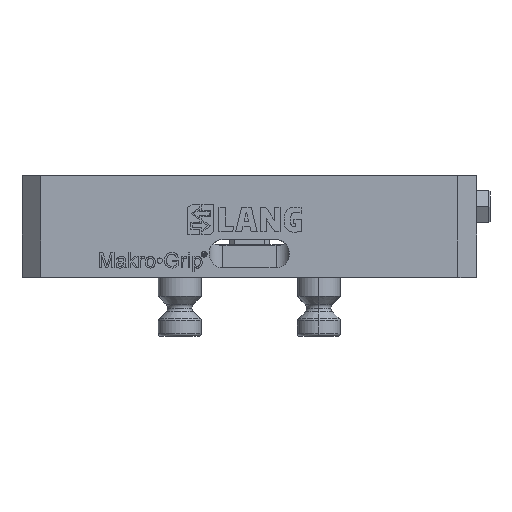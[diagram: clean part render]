
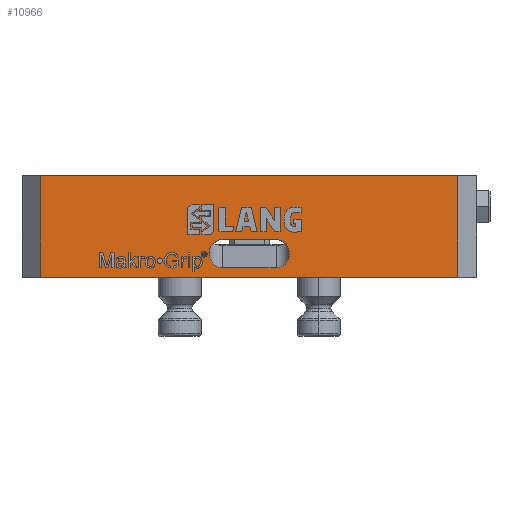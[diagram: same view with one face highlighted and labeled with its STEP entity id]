
A CAD part, top view. The second image highlights one B-rep face of the part: STEP entity #10966.
In plain terms, the highlighted planar face has unit normal (0, 0, 1).
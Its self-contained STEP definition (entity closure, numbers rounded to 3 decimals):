
#294 = EDGE_CURVE ( 'NONE', #27011, #9029, #32308, .T. ) ;
#349 = VERTEX_POINT ( 'NONE', #32998 ) ;
#685 = EDGE_CURVE ( 'NONE', #6804, #349, #3985, .T. ) ;
#1030 = CARTESIAN_POINT ( 'NONE',  ( 15., 8.808, 38.5 ) ) ;
#1328 = FACE_BOUND ( 'NONE', #12270, .T. ) ;
#1530 = EDGE_CURVE ( 'NONE', #5345, #349, #28837, .T. ) ;
#2173 = LINE ( 'NONE', #34609, #36322 ) ;
#2623 = ORIENTED_EDGE ( 'NONE', *, *, #1530, .T. ) ;
#3155 = VERTEX_POINT ( 'NONE', #7924 ) ;
#3768 = ORIENTED_EDGE ( 'NONE', *, *, #21366, .T. ) ;
#3985 = LINE ( 'NONE', #8013, #7930 ) ;
#5191 = EDGE_CURVE ( 'NONE', #25659, #5345, #38164, .T. ) ;
#5345 = VERTEX_POINT ( 'NONE', #29963 ) ;
#5433 = CARTESIAN_POINT ( 'NONE',  ( 78., 0., 38.5 ) ) ;
#5728 = DIRECTION ( 'NONE',  ( -1., 0., 0. ) ) ;
#5866 = CARTESIAN_POINT ( 'NONE',  ( 10., 14.129, 38.5 ) ) ;
#6238 = CARTESIAN_POINT ( 'NONE',  ( 10., 3.487, 38.5 ) ) ;
#6244 = CARTESIAN_POINT ( 'NONE',  ( -10., 14.129, 38.5 ) ) ;
#6804 = VERTEX_POINT ( 'NONE', #40653 ) ;
#7007 = VERTEX_POINT ( 'NONE', #22051 ) ;
#7333 = DIRECTION ( 'NONE',  ( 1., 0., 0. ) ) ;
#7924 = CARTESIAN_POINT ( 'NONE',  ( -78., 38., 38.5 ) ) ;
#7930 = VECTOR ( 'NONE', #7333, 1000. ) ;
#7931 = CARTESIAN_POINT ( 'NONE',  ( -15., 5.691, 38.5 ) ) ;
#8013 = CARTESIAN_POINT ( 'NONE',  ( 85., 3.487, 38.5 ) ) ;
#8031 = EDGE_CURVE ( 'NONE', #25659, #36344, #2173, .T. ) ;
#8926 = PLANE ( 'NONE',  #29462 ) ;
#9029 = VERTEX_POINT ( 'NONE', #30348 ) ;
#9309 = CARTESIAN_POINT ( 'NONE',  ( 12.929, 3.487, 38.5 ) ) ;
#9416 = FACE_OUTER_BOUND ( 'NONE', #38740, .T. ) ;
#10230 = CARTESIAN_POINT ( 'NONE',  ( -15., 8.808, 38.5 ) ) ;
#10320 = ORIENTED_EDGE ( 'NONE', *, *, #17423, .T. ) ;
#10966 = ADVANCED_FACE ( 'NONE', ( #1328, #9416 ), #8926, .F. ) ;
#11203 = CARTESIAN_POINT ( 'NONE',  ( -12.929, 3.487, 38.5 ) ) ;
#12270 = EDGE_LOOP ( 'NONE', ( #44493, #3768, #15460, #26743, #18880, #2623 ) ) ;
#13415 = LINE ( 'NONE', #42090, #45635 ) ;
#14505 = VERTEX_POINT ( 'NONE', #15973 ) ;
#14734 = CARTESIAN_POINT ( 'NONE',  ( -10., 3.487, 38.5 ) ) ;
#15051 = EDGE_CURVE ( 'NONE', #27011, #7007, #13415, .T. ) ;
#15460 = ORIENTED_EDGE ( 'NONE', *, *, #19992, .T. ) ;
#15973 = CARTESIAN_POINT ( 'NONE',  ( -15., 8.808, 38.5 ) ) ;
#17423 = EDGE_CURVE ( 'NONE', #3155, #9029, #37919, .T. ) ;
#18880 = ORIENTED_EDGE ( 'NONE', *, *, #5191, .T. ) ;
#19201 = CARTESIAN_POINT ( 'NONE',  ( 10., 14.129, 38.5 ) ) ;
#19717 = DIRECTION ( 'NONE',  ( -1., 0., 0. ) ) ;
#19992 = EDGE_CURVE ( 'NONE', #14505, #36344, #27039, .T. ) ;
#20084 = LINE ( 'NONE', #21002, #39018 ) ;
#21002 = CARTESIAN_POINT ( 'NONE',  ( 85., 38., 38.5 ) ) ;
#21239 = ORIENTED_EDGE ( 'NONE', *, *, #294, .F. ) ;
#21366 = EDGE_CURVE ( 'NONE', #6804, #14505, #33601, .T. ) ;
#22051 = CARTESIAN_POINT ( 'NONE',  ( 78., 38., 38.5 ) ) ;
#23081 = EDGE_CURVE ( 'NONE', #7007, #3155, #20084, .T. ) ;
#24544 = CARTESIAN_POINT ( 'NONE',  ( 15., 8.808, 38.5 ) ) ;
#25659 = VERTEX_POINT ( 'NONE', #5866 ) ;
#26743 = ORIENTED_EDGE ( 'NONE', *, *, #8031, .F. ) ;
#27011 = VERTEX_POINT ( 'NONE', #5433 ) ;
#27039 =( BOUNDED_CURVE ( )  B_SPLINE_CURVE ( 3, ( #10230, #38664, #38407, #6244 ),
 .UNSPECIFIED., .F., .F. ) 
 B_SPLINE_CURVE_WITH_KNOTS ( ( 4, 4 ),
 ( 4.712, 6.283 ),
 .UNSPECIFIED. ) 
 CURVE ( )  GEOMETRIC_REPRESENTATION_ITEM ( )  RATIONAL_B_SPLINE_CURVE ( ( 1., 0.805, 0.805, 1. ) ) 
 REPRESENTATION_ITEM ( '' )  );
#28547 = DIRECTION ( 'NONE',  ( -1., 0., 0. ) ) ;
#28837 =( BOUNDED_CURVE ( )  B_SPLINE_CURVE ( 3, ( #24544, #45034, #9309, #6238 ),
 .UNSPECIFIED., .F., .F. ) 
 B_SPLINE_CURVE_WITH_KNOTS ( ( 4, 4 ),
 ( 1.571, 3.142 ),
 .UNSPECIFIED. ) 
 CURVE ( )  GEOMETRIC_REPRESENTATION_ITEM ( )  RATIONAL_B_SPLINE_CURVE ( ( 1., 0.805, 0.805, 1. ) ) 
 REPRESENTATION_ITEM ( '' )  );
#28921 = VECTOR ( 'NONE', #28547, 1000. ) ;
#29462 = AXIS2_PLACEMENT_3D ( 'NONE', #40861, #33778, #19717 ) ;
#29963 = CARTESIAN_POINT ( 'NONE',  ( 15., 8.808, 38.5 ) ) ;
#30348 = CARTESIAN_POINT ( 'NONE',  ( -78., 0., 38.5 ) ) ;
#31112 = DIRECTION ( 'NONE',  ( 0., -1., 0. ) ) ;
#31342 = DIRECTION ( 'NONE',  ( -1., 0., 0. ) ) ;
#32039 = ORIENTED_EDGE ( 'NONE', *, *, #23081, .T. ) ;
#32085 = CARTESIAN_POINT ( 'NONE',  ( 85., 0., 38.5 ) ) ;
#32190 = VECTOR ( 'NONE', #31112, 1000. ) ;
#32308 = LINE ( 'NONE', #32085, #28921 ) ;
#32739 = CARTESIAN_POINT ( 'NONE',  ( -10., 14.129, 38.5 ) ) ;
#32998 = CARTESIAN_POINT ( 'NONE',  ( 10., 3.487, 38.5 ) ) ;
#33267 = CARTESIAN_POINT ( 'NONE',  ( 12.929, 14.129, 38.5 ) ) ;
#33601 =( BOUNDED_CURVE ( )  B_SPLINE_CURVE ( 3, ( #14734, #11203, #7931, #43195 ),
 .UNSPECIFIED., .F., .F. ) 
 B_SPLINE_CURVE_WITH_KNOTS ( ( 4, 4 ),
 ( 0., 1.571 ),
 .UNSPECIFIED. ) 
 CURVE ( )  GEOMETRIC_REPRESENTATION_ITEM ( )  RATIONAL_B_SPLINE_CURVE ( ( 1., 0.805, 0.805, 1. ) ) 
 REPRESENTATION_ITEM ( '' )  );
#33741 = ORIENTED_EDGE ( 'NONE', *, *, #15051, .T. ) ;
#33778 = DIRECTION ( 'NONE',  ( 0., 0., -1. ) ) ;
#34609 = CARTESIAN_POINT ( 'NONE',  ( 85., 14.129, 38.5 ) ) ;
#34610 = CARTESIAN_POINT ( 'NONE',  ( -78., 0., 38.5 ) ) ;
#36322 = VECTOR ( 'NONE', #5728, 1000. ) ;
#36344 = VERTEX_POINT ( 'NONE', #32739 ) ;
#37919 = LINE ( 'NONE', #34610, #32190 ) ;
#38164 =( BOUNDED_CURVE ( )  B_SPLINE_CURVE ( 3, ( #19201, #33267, #43653, #1030 ),
 .UNSPECIFIED., .F., .T. ) 
 B_SPLINE_CURVE_WITH_KNOTS ( ( 4, 4 ),
 ( 3.142, 4.712 ),
 .UNSPECIFIED. ) 
 CURVE ( )  GEOMETRIC_REPRESENTATION_ITEM ( )  RATIONAL_B_SPLINE_CURVE ( ( 1., 0.805, 0.805, 1. ) ) 
 REPRESENTATION_ITEM ( '' )  );
#38407 = CARTESIAN_POINT ( 'NONE',  ( -12.929, 14.129, 38.5 ) ) ;
#38664 = CARTESIAN_POINT ( 'NONE',  ( -15., 11.925, 38.5 ) ) ;
#38740 = EDGE_LOOP ( 'NONE', ( #32039, #10320, #21239, #33741 ) ) ;
#38786 = DIRECTION ( 'NONE',  ( 0., 1., 0. ) ) ;
#39018 = VECTOR ( 'NONE', #31342, 1000. ) ;
#40653 = CARTESIAN_POINT ( 'NONE',  ( -10., 3.487, 38.5 ) ) ;
#40861 = CARTESIAN_POINT ( 'NONE',  ( 85., 0., 38.5 ) ) ;
#42090 = CARTESIAN_POINT ( 'NONE',  ( 78., 38., 38.5 ) ) ;
#43195 = CARTESIAN_POINT ( 'NONE',  ( -15., 8.808, 38.5 ) ) ;
#43653 = CARTESIAN_POINT ( 'NONE',  ( 15., 11.925, 38.5 ) ) ;
#44493 = ORIENTED_EDGE ( 'NONE', *, *, #685, .F. ) ;
#45034 = CARTESIAN_POINT ( 'NONE',  ( 15., 5.691, 38.5 ) ) ;
#45635 = VECTOR ( 'NONE', #38786, 1000. ) ;
